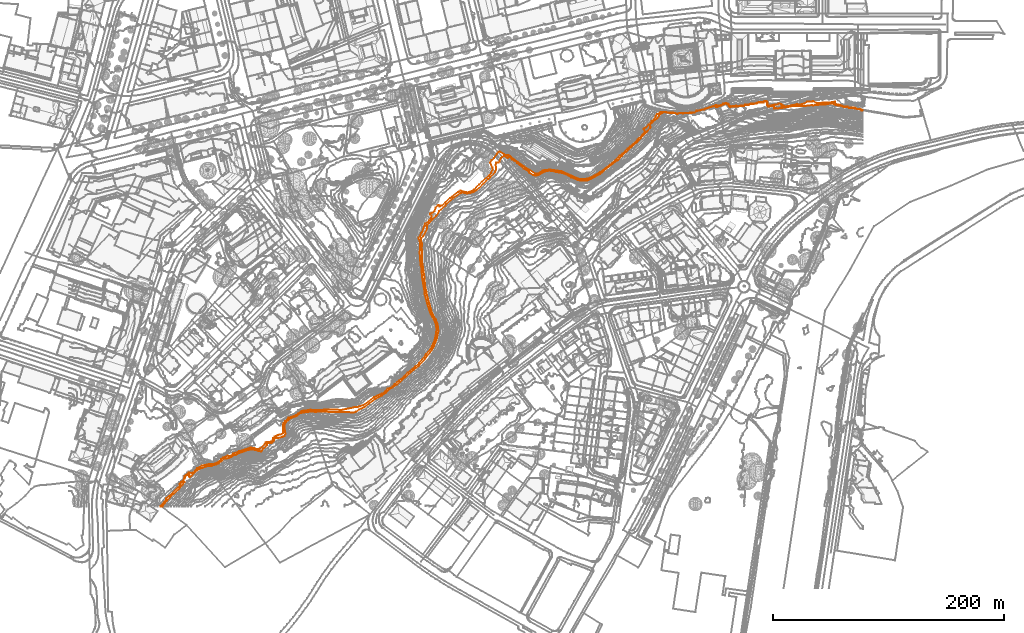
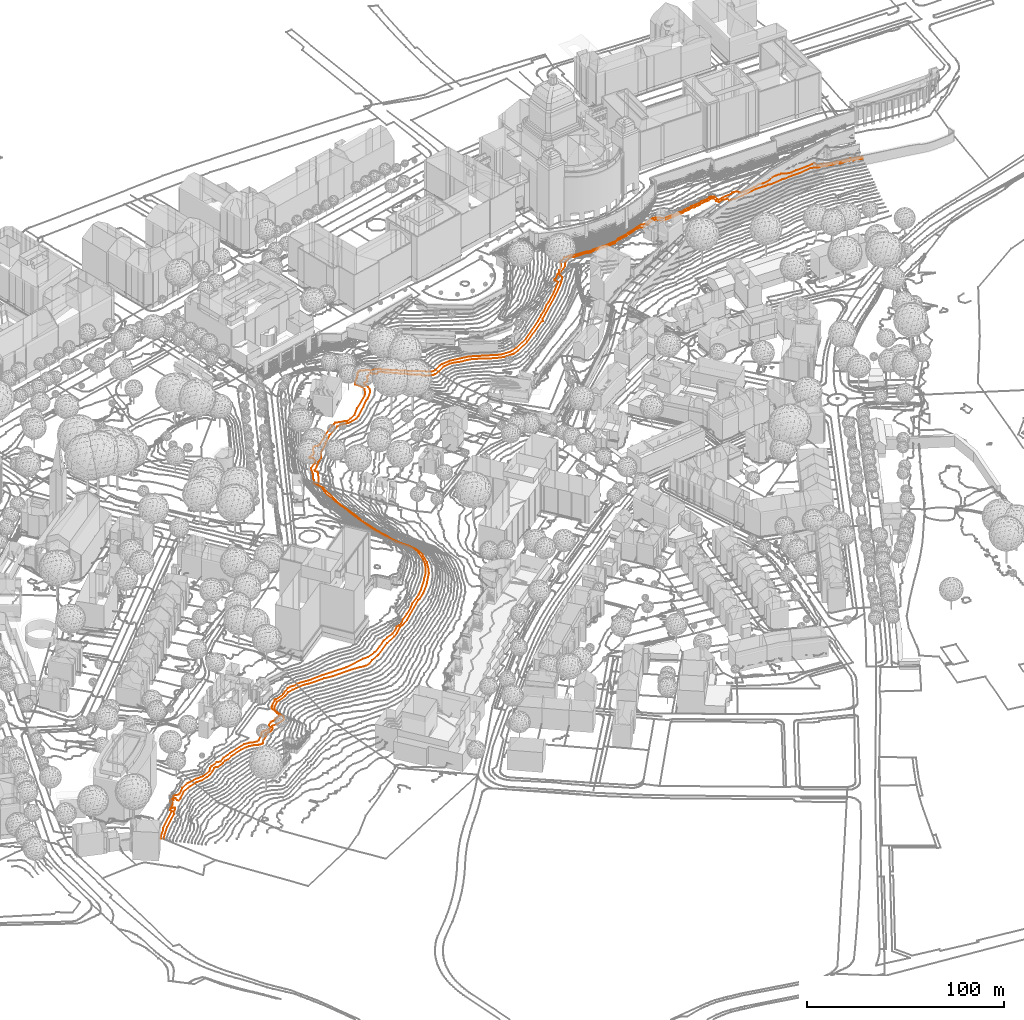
# Not in any storey, part 160 of 494: 2 proxies.
"""IFC2X3 model written with IfcOpenShell, lengths in metres."""

from ifc_helpers import new_model, entity, si_unit, frame, origin_with_axes, place, context, subcontext, project, element, save


model = new_model("IFC2X3")

# Units and contexts
model_context = context("Model", 3, precision=1e-05, world=origin_with_axes())
body_context = subcontext(model_context, "Body", "Model", "MODEL_VIEW")
ifc_project = project(units=[si_unit("AREAUNIT", "SQUARE_METRE"), si_unit("LENGTHUNIT", "METRE")], contexts=[model_context])

# Proxies
proxy_1_placement = place(None, frame((80.2901245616, -1.3292839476, 523.0), z_axis=(0.0, 0.0, 1.0), x_axis=(1.0, 0.0, 0.0)))
element("IfcBuildingElementProxy", 1, at=proxy_1_placement, Name="Contour Line 523.0 m", ObjectType="NOTDEFINED", context=body_context, shape_type="GeometricCurveSet", body=[
    entity("IfcGeometricCurveSet", [entity("IfcPolyline", [entity("IfcCartesianPoint", [607.887607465, 343.9617349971, 0.0]), entity("IfcCartesianPoint", [606.387607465, 343.9329617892, 0.0]), entity("IfcCartesianPoint", [604.387607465, 344.9141436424, 0.0]), entity("IfcCartesianPoint", [602.387607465, 344.935644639, 0.0]), entity("IfcCartesianPoint", [601.387607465, 345.7132779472, 0.0]), entity("IfcCartesianPoint", [600.387607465, 345.3858418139, 0.0]), entity("IfcCartesianPoint", [599.387607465, 345.8401272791, 0.0]), entity("IfcCartesianPoint", [595.387607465, 345.9447836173, 0.0]), entity("IfcCartesianPoint", [594.387607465, 346.6940553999, 0.0]), entity("IfcCartesianPoint", [591.387607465, 346.9101372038, 0.0]), entity("IfcCartesianPoint", [586.387607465, 348.2192258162, 0.0]), entity("IfcCartesianPoint", [584.387607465, 348.3340580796, 0.0]), entity("IfcCartesianPoint", [580.387607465, 349.968499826, 0.0]), entity("IfcCartesianPoint", [573.387607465, 348.8117602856, 0.0]), entity("IfcCartesianPoint", [567.387607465, 348.6889961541, 0.0]), entity("IfcCartesianPoint", [564.387607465, 348.205562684, 0.0]), entity("IfcCartesianPoint", [563.387607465, 348.5199958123, 0.0]), entity("IfcCartesianPoint", [556.387607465, 347.5734642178, 0.0]), entity("IfcCartesianPoint", [554.387607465, 347.8144634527, 0.0]), entity("IfcCartesianPoint", [552.387607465, 347.5605184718, 0.0]), entity("IfcCartesianPoint", [551.387607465, 347.7970346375, 0.0]), entity("IfcCartesianPoint", [545.387607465, 347.5783305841, 0.0]), entity("IfcCartesianPoint", [544.387607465, 347.13455332, 0.0]), entity("IfcCartesianPoint", [538.387607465, 346.1805238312, 0.0]), entity("IfcCartesianPoint", [533.387607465, 345.5488092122, 0.0]), entity("IfcCartesianPoint", [532.387607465, 345.907955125, 0.0]), entity("IfcCartesianPoint", [531.387607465, 345.4895615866, 0.0]), entity("IfcCartesianPoint", [530.387607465, 345.4956201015, 0.0]), entity("IfcCartesianPoint", [530.4279519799, 347.5, 0.0]), entity("IfcCartesianPoint", [527.387607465, 347.6563936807, 0.0]), entity("IfcCartesianPoint", [525.387607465, 347.0467432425, 0.0]), entity("IfcCartesianPoint", [524.4308425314, 348.5, 0.0]), entity("IfcCartesianPoint", [524.387607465, 350.9600795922, 0.0]), entity("IfcCartesianPoint", [523.387607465, 351.6588998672, 0.0]), entity("IfcCartesianPoint", [522.387607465, 351.635143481, 0.0]), entity("IfcCartesianPoint", [521.387607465, 350.8504728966, 0.0]), entity("IfcCartesianPoint", [516.387607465, 350.6013001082, 0.0]), entity("IfcCartesianPoint", [515.387607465, 349.7208739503, 0.0]), entity("IfcCartesianPoint", [513.387607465, 349.6766902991, 0.0]), entity("IfcCartesianPoint", [512.387607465, 349.1739752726, 0.0]), entity("IfcCartesianPoint", [510.387607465, 349.5275631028, 0.0]), entity("IfcCartesianPoint", [508.387607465, 348.7257037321, 0.0]), entity("IfcCartesianPoint", [505.387607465, 348.5382556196, 0.0]), entity("IfcCartesianPoint", [504.387607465, 347.7509316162, 0.0]), entity("IfcCartesianPoint", [500.387607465, 347.7685088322, 0.0]), entity("IfcCartesianPoint", [498.387607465, 347.045840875, 0.0]), entity("IfcCartesianPoint", [497.387607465, 347.3271009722, 0.0]), entity("IfcCartesianPoint", [492.387607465, 346.9011822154, 0.0]), entity("IfcCartesianPoint", [491.4590246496, 347.5, 0.0]), entity("IfcCartesianPoint", [490.8984999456, 348.5, 0.0]), entity("IfcCartesianPoint", [489.7314452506, 349.5, 0.0]), entity("IfcCartesianPoint", [488.387607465, 349.8032248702, 0.0]), entity("IfcCartesianPoint", [486.387607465, 349.1305740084, 0.0]), entity("IfcCartesianPoint", [484.387607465, 347.9505357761, 0.0]), entity("IfcCartesianPoint", [482.387607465, 347.6313119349, 0.0]), entity("IfcCartesianPoint", [481.387607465, 346.9363981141, 0.0]), entity("IfcCartesianPoint", [480.387607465, 346.9432249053, 0.0]), entity("IfcCartesianPoint", [479.387607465, 347.5726016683, 0.0]), entity("IfcCartesianPoint", [477.8735184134, 347.5, 0.0]), entity("IfcCartesianPoint", [471.610186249, 345.5, 0.0]), entity("IfcCartesianPoint", [469.387607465, 344.4264921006, 0.0]), entity("IfcCartesianPoint", [468.387607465, 344.5714488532, 0.0]), entity("IfcCartesianPoint", [465.387607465, 343.6252999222, 0.0]), entity("IfcCartesianPoint", [463.6419995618, 343.5, 0.0]), entity("IfcCartesianPoint", [461.387607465, 341.8989911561, 0.0]), entity("IfcCartesianPoint", [453.387607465, 341.4434266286, 0.0]), entity("IfcCartesianPoint", [452.387607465, 341.6057066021, 0.0]), entity("IfcCartesianPoint", [451.387607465, 341.3414833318, 0.0]), entity("IfcCartesianPoint", [450.387607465, 341.6332492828, 0.0]), entity("IfcCartesianPoint", [448.387607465, 341.5722498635, 0.0]), entity("IfcCartesianPoint", [446.387607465, 340.8856875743, 0.0]), entity("IfcCartesianPoint", [444.387607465, 341.6857076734, 0.0]), entity("IfcCartesianPoint", [437.387607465, 341.8243433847, 0.0]), entity("IfcCartesianPoint", [435.8031956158, 342.5, 0.0]), entity("IfcCartesianPoint", [435.0239482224, 342.5, 0.0]), entity("IfcCartesianPoint", [431.8267600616, 340.5, 0.0]), entity("IfcCartesianPoint", [430.8339106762, 339.5, 0.0]), entity("IfcCartesianPoint", [429.387607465, 337.125364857, 0.0]), entity("IfcCartesianPoint", [424.6018988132, 333.5, 0.0]), entity("IfcCartesianPoint", [422.9805183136, 331.5, 0.0]), entity("IfcCartesianPoint", [422.8377163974, 330.5, 0.0]), entity("IfcCartesianPoint", [423.2194077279, 329.5, 0.0]), entity("IfcCartesianPoint", [422.7685290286, 328.5, 0.0]), entity("IfcCartesianPoint", [420.364514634, 325.5, 0.0]), entity("IfcCartesianPoint", [411.5872614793, 316.5, 0.0]), entity("IfcCartesianPoint", [396.3376795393, 302.5, 0.0]), entity("IfcCartesianPoint", [395.387607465, 300.7470509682, 0.0]), entity("IfcCartesianPoint", [394.387607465, 300.5691561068, 0.0]), entity("IfcCartesianPoint", [379.387607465, 288.8152193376, 0.0]), entity("IfcCartesianPoint", [371.387607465, 284.3474561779, 0.0]), entity("IfcCartesianPoint", [368.387607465, 283.0231230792, 0.0]), entity("IfcCartesianPoint", [367.387607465, 282.8914207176, 0.0]), entity("IfcCartesianPoint", [362.387607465, 283.0132835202, 0.0]), entity("IfcCartesianPoint", [360.387607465, 283.4012318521, 0.0]), entity("IfcCartesianPoint", [354.387607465, 285.8347690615, 0.0]), entity("IfcCartesianPoint", [350.387607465, 288.0601079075, 0.0]), entity("IfcCartesianPoint", [346.387607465, 289.7221881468, 0.0]), entity("IfcCartesianPoint", [341.387607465, 290.3387412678, 0.0]), entity("IfcCartesianPoint", [338.387607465, 291.1725765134, 0.0]), entity("IfcCartesianPoint", [335.387607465, 291.548756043, 0.0]), entity("IfcCartesianPoint", [331.387607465, 290.8349322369, 0.0]), entity("IfcCartesianPoint", [327.387607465, 288.4887863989, 0.0]), entity("IfcCartesianPoint", [324.387607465, 287.3178466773, 0.0]), entity("IfcCartesianPoint", [323.387607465, 287.1474806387, 0.0]), entity("IfcCartesianPoint", [322.387607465, 287.6777660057, 0.0]), entity("IfcCartesianPoint", [321.387607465, 287.6927975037, 0.0]), entity("IfcCartesianPoint", [318.4787883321, 289.5, 0.0]), entity("IfcCartesianPoint", [318.1269273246, 290.5, 0.0]), entity("IfcCartesianPoint", [317.387607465, 291.0615405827, 0.0]), entity("IfcCartesianPoint", [313.387607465, 293.398916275, 0.0]), entity("IfcCartesianPoint", [312.387607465, 294.5399532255, 0.0]), entity("IfcCartesianPoint", [307.387607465, 298.1683298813, 0.0]), entity("IfcCartesianPoint", [304.7986599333, 300.5, 0.0]), entity("IfcCartesianPoint", [303.387607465, 301.3018742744, 0.0]), entity("IfcCartesianPoint", [301.387607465, 303.3150881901, 0.0]), entity("IfcCartesianPoint", [300.387607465, 303.3063492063, 0.0]), entity("IfcCartesianPoint", [299.387607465, 302.4840359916, 0.0]), entity("IfcCartesianPoint", [296.387607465, 304.3757330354, 0.0]), entity("IfcCartesianPoint", [294.387607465, 303.2894971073, 0.0]), entity("IfcCartesianPoint", [293.5268602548, 302.5, 0.0]), entity("IfcCartesianPoint", [292.1628645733, 299.5, 0.0]), entity("IfcCartesianPoint", [291.387607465, 298.8351491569, 0.0]), entity("IfcCartesianPoint", [289.3373173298, 298.5, 0.0]), entity("IfcCartesianPoint", [289.0014120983, 296.5, 0.0]), entity("IfcCartesianPoint", [289.4528651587, 294.5, 0.0]), entity("IfcCartesianPoint", [289.2950275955, 292.5, 0.0]), entity("IfcCartesianPoint", [288.4443204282, 290.5, 0.0]), entity("IfcCartesianPoint", [284.031815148, 285.5, 0.0]), entity("IfcCartesianPoint", [282.387607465, 284.4206248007, 0.0]), entity("IfcCartesianPoint", [278.6139767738, 280.5, 0.0]), entity("IfcCartesianPoint", [272.387607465, 274.8032613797, 0.0]), entity("IfcCartesianPoint", [270.387607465, 273.345480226, 0.0]), entity("IfcCartesianPoint", [266.387607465, 272.1306627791, 0.0]), entity("IfcCartesianPoint", [264.387607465, 271.8679263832, 0.0]), entity("IfcCartesianPoint", [263.387607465, 272.2083102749, 0.0]), entity("IfcCartesianPoint", [262.387607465, 272.0954206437, 0.0]), entity("IfcCartesianPoint", [260.387607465, 272.4870904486, 0.0]), entity("IfcCartesianPoint", [258.387607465, 272.0853977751, 0.0]), entity("IfcCartesianPoint", [251.387607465, 267.375862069, 0.0]), entity("IfcCartesianPoint", [245.9177363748, 262.5, 0.0]), entity("IfcCartesianPoint", [245.387607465, 261.4444942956, 0.0]), entity("IfcCartesianPoint", [240.0871224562, 256.5, 0.0]), entity("IfcCartesianPoint", [237.387607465, 252.089555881, 0.0]), entity("IfcCartesianPoint", [234.387607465, 249.6857069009, 0.0]), entity("IfcCartesianPoint", [231.387607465, 246.1584673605, 0.0]), entity("IfcCartesianPoint", [229.387607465, 244.5170024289, 0.0]), entity("IfcCartesianPoint", [228.9432533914, 243.5, 0.0]), entity("IfcCartesianPoint", [229.6468821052, 242.5, 0.0]), entity("IfcCartesianPoint", [229.5535583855, 241.5, 0.0]), entity("IfcCartesianPoint", [226.5150489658, 235.5, 0.0]), entity("IfcCartesianPoint", [224.252154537, 232.5, 0.0]), entity("IfcCartesianPoint", [224.1505689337, 231.5, 0.0]), entity("IfcCartesianPoint", [225.2495502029, 228.5, 0.0]), entity("IfcCartesianPoint", [224.9029743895, 225.5, 0.0]), entity("IfcCartesianPoint", [225.2623955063, 212.5, 0.0]), entity("IfcCartesianPoint", [227.3521795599, 198.5, 0.0]), entity("IfcCartesianPoint", [227.6829179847, 192.5, 0.0]), entity("IfcCartesianPoint", [229.0436056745, 186.5, 0.0]), entity("IfcCartesianPoint", [229.0337632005, 185.5, 0.0]), entity("IfcCartesianPoint", [230.457656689, 180.5, 0.0]), entity("IfcCartesianPoint", [230.4317061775, 179.5, 0.0]), entity("IfcCartesianPoint", [231.387607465, 177.2787839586, 0.0]), entity("IfcCartesianPoint", [233.0495169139, 170.5, 0.0]), entity("IfcCartesianPoint", [234.7615934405, 166.5, 0.0]), entity("IfcCartesianPoint", [237.1338685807, 162.5, 0.0]), entity("IfcCartesianPoint", [238.6294713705, 158.5, 0.0]), entity("IfcCartesianPoint", [239.187552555, 155.5, 0.0]), entity("IfcCartesianPoint", [239.2970750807, 152.5, 0.0]), entity("IfcCartesianPoint", [237.8738739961, 145.5, 0.0]), entity("IfcCartesianPoint", [235.4325001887, 139.5, 0.0]), entity("IfcCartesianPoint", [233.8001429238, 136.5, 0.0]), entity("IfcCartesianPoint", [227.8925513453, 128.5, 0.0]), entity("IfcCartesianPoint", [222.387607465, 122.5286803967, 0.0]), entity("IfcCartesianPoint", [218.387607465, 119.1673704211, 0.0]), entity("IfcCartesianPoint", [217.1425792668, 118.5, 0.0]), entity("IfcCartesianPoint", [203.387607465, 106.0939931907, 0.0]), entity("IfcCartesianPoint", [199.387607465, 103.5094870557, 0.0]), entity("IfcCartesianPoint", [197.1884157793, 102.5, 0.0]), entity("IfcCartesianPoint", [193.387607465, 98.839586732, 0.0]), entity("IfcCartesianPoint", [190.387607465, 96.6407471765, 0.0]), entity("IfcCartesianPoint", [184.387607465, 93.4671872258, 0.0]), entity("IfcCartesianPoint", [175.387607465, 86.6558441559, 0.0]), entity("IfcCartesianPoint", [170.4765164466, 84.5, 0.0]), entity("IfcCartesianPoint", [167.8571525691, 82.5, 0.0]), entity("IfcCartesianPoint", [165.387607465, 81.6234413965, 0.0]), entity("IfcCartesianPoint", [164.387607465, 81.5694310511, 0.0]), entity("IfcCartesianPoint", [161.387607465, 82.159366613, 0.0]), entity("IfcCartesianPoint", [157.387607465, 82.342209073, 0.0]), entity("IfcCartesianPoint", [146.387607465, 82.0065545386, 0.0]), entity("IfcCartesianPoint", [141.387607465, 82.5680634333, 0.0]), entity("IfcCartesianPoint", [132.387607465, 82.3552546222, 0.0]), entity("IfcCartesianPoint", [129.387607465, 82.77495078, 0.0]), entity("IfcCartesianPoint", [122.387607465, 81.8322362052, 0.0]), entity("IfcCartesianPoint", [119.387607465, 81.1572930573, 0.0]), entity("IfcCartesianPoint", [116.387607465, 78.8026834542, 0.0]), entity("IfcCartesianPoint", [110.387607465, 76.5240095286, 0.0]), entity("IfcCartesianPoint", [107.2269230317, 73.5, 0.0]), entity("IfcCartesianPoint", [105.9782556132, 71.5, 0.0]), entity("IfcCartesianPoint", [105.8037117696, 68.5, 0.0]), entity("IfcCartesianPoint", [106.6391298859, 63.5, 0.0]), entity("IfcCartesianPoint", [105.6840139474, 61.5, 0.0]), entity("IfcCartesianPoint", [104.387607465, 60.7896774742, 0.0]), entity("IfcCartesianPoint", [100.387607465, 59.5223642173, 0.0]), entity("IfcCartesianPoint", [97.387607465, 59.4044834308, 0.0]), entity("IfcCartesianPoint", [96.7213966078, 58.5, 0.0]), entity("IfcCartesianPoint", [96.7549462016, 57.5, 0.0]), entity("IfcCartesianPoint", [95.387607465, 56.0836190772, 0.0]), entity("IfcCartesianPoint", [94.387607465, 55.4600977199, 0.0]), entity("IfcCartesianPoint", [91.387607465, 55.0930104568, 0.0]), entity("IfcCartesianPoint", [90.61047079, 54.5, 0.0]), entity("IfcCartesianPoint", [90.6728069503, 53.5, 0.0]), entity("IfcCartesianPoint", [90.387607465, 53.0814129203, 0.0]), entity("IfcCartesianPoint", [87.2115131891, 50.5, 0.0]), entity("IfcCartesianPoint", [86.004655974, 48.5, 0.0]), entity("IfcCartesianPoint", [85.387607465, 48.0544362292, 0.0]), entity("IfcCartesianPoint", [83.387607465, 48.1847888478, 0.0]), entity("IfcCartesianPoint", [80.387607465, 49.3613977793, 0.0]), entity("IfcCartesianPoint", [78.387607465, 49.6029000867, 0.0]), entity("IfcCartesianPoint", [76.387607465, 49.6364249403, 0.0]), entity("IfcCartesianPoint", [73.387607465, 48.9988590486, 0.0]), entity("IfcCartesianPoint", [66.387607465, 46.6589863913, 0.0]), entity("IfcCartesianPoint", [63.387607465, 44.8832614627, 0.0]), entity("IfcCartesianPoint", [61.387607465, 44.5843885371, 0.0]), entity("IfcCartesianPoint", [59.387607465, 43.2367092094, 0.0]), entity("IfcCartesianPoint", [57.387607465, 42.3674785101, 0.0]), entity("IfcCartesianPoint", [55.387607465, 41.7757069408, 0.0]), entity("IfcCartesianPoint", [54.387607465, 42.0655055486, 0.0]), entity("IfcCartesianPoint", [53.387607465, 41.7878219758, 0.0]), entity("IfcCartesianPoint", [51.387607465, 39.7250000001, 0.0]), entity("IfcCartesianPoint", [48.387607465, 37.6286245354, 0.0]), entity("IfcCartesianPoint", [46.387607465, 36.769304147, 0.0]), entity("IfcCartesianPoint", [42.387607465, 35.4841887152, 0.0]), entity("IfcCartesianPoint", [39.387607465, 35.3817577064, 0.0]), entity("IfcCartesianPoint", [34.387607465, 33.8119349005, 0.0]), entity("IfcCartesianPoint", [29.6582101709, 31.5, 0.0]), entity("IfcCartesianPoint", [25.387607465, 27.2555387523, 0.0]), entity("IfcCartesianPoint", [23.387607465, 25.8533734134, 0.0]), entity("IfcCartesianPoint", [23.0269517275, 26.5, 0.0]), entity("IfcCartesianPoint", [23.2056843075, 28.5, 0.0]), entity("IfcCartesianPoint", [22.387607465, 28.8152763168, 0.0]), entity("IfcCartesianPoint", [21.387607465, 27.525104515, 0.0]), entity("IfcCartesianPoint", [19.2088132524, 26.5, 0.0]), entity("IfcCartesianPoint", [19.7446034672, 25.5, 0.0]), entity("IfcCartesianPoint", [19.2012319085, 24.5, 0.0]), entity("IfcCartesianPoint", [17.2445183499, 22.5, 0.0]), entity("IfcCartesianPoint", [17.387607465, 21.509166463, 0.0]), entity("IfcCartesianPoint", [18.387607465, 21.8259928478, 0.0]), entity("IfcCartesianPoint", [18.9146920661, 21.5, 0.0]), entity("IfcCartesianPoint", [17.387607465, 19.311473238, 0.0]), entity("IfcCartesianPoint", [16.387607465, 18.5598396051, 0.0]), entity("IfcCartesianPoint", [15.387607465, 16.7103158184, 0.0]), entity("IfcCartesianPoint", [6.6591608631, 8.5, 0.0]), entity("IfcCartesianPoint", [2.3040126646, 3.5, 0.0]), entity("IfcCartesianPoint", [0.0, 0.5, 0.0]), entity("IfcCartesianPoint", [0.0, 0.0, 0.0])])]),
])
proxy_2_placement = place(None, frame((78.4154227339, -1.3292839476, 524.0), z_axis=(0.0, 0.0, 1.0), x_axis=(1.0, 0.0, 0.0)))
element("IfcBuildingElementProxy", 2, at=proxy_2_placement, Name="Contour Line 524.0 m", ObjectType="NOTDEFINED", context=body_context, shape_type="GeometricCurveSet", body=[
    entity("IfcGeometricCurveSet", [entity("IfcPolyline", [entity("IfcCartesianPoint", [609.7623092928, 344.286234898, 0.0]), entity("IfcCartesianPoint", [608.2623092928, 344.2246892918, 0.0]), entity("IfcCartesianPoint", [607.2623092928, 344.9590182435, 0.0]), entity("IfcCartesianPoint", [606.2623092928, 345.2153256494, 0.0]), entity("IfcCartesianPoint", [604.2623092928, 345.2320320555, 0.0]), entity("IfcCartesianPoint", [603.2623092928, 346.1159915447, 0.0]), entity("IfcCartesianPoint", [597.2623092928, 346.2305726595, 0.0]), entity("IfcCartesianPoint", [596.2623092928, 347.1189957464, 0.0]), entity("IfcCartesianPoint", [593.2623092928, 347.2197717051, 0.0]), entity("IfcCartesianPoint", [588.2623092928, 348.9337588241, 0.0]), entity("IfcCartesianPoint", [586.2623092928, 349.1539193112, 0.0]), entity("IfcCartesianPoint", [585.7941982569, 349.5, 0.0]), entity("IfcCartesianPoint", [585.2623092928, 351.5100186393, 0.0]), entity("IfcCartesianPoint", [581.2623092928, 350.8499732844, 0.0]), entity("IfcCartesianPoint", [574.2623092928, 350.6660930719, 0.0]), entity("IfcCartesianPoint", [571.2623092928, 350.182030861, 0.0]), entity("IfcCartesianPoint", [568.4652279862, 350.5, 0.0]), entity("IfcCartesianPoint", [566.2623092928, 351.8584292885, 0.0]), entity("IfcCartesianPoint", [565.2623092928, 351.6362995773, 0.0]), entity("IfcCartesianPoint", [562.2623092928, 351.7382369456, 0.0]), entity("IfcCartesianPoint", [560.831351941, 351.5, 0.0]), entity("IfcCartesianPoint", [558.2623092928, 349.8761570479, 0.0]), entity("IfcCartesianPoint", [554.2623092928, 348.8389417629, 0.0]), entity("IfcCartesianPoint", [552.2623092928, 349.3170882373, 0.0]), entity("IfcCartesianPoint", [548.2623092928, 348.3243764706, 0.0]), entity("IfcCartesianPoint", [542.2623092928, 347.2999059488, 0.0]), entity("IfcCartesianPoint", [541.2623092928, 347.6364945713, 0.0]), entity("IfcCartesianPoint", [540.2623092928, 347.3253578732, 0.0]), entity("IfcCartesianPoint", [539.1094185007, 347.5, 0.0]), entity("IfcCartesianPoint", [539.6221059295, 348.5, 0.0]), entity("IfcCartesianPoint", [538.4832491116, 349.5, 0.0]), entity("IfcCartesianPoint", [537.2623092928, 349.6359676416, 0.0]), entity("IfcCartesianPoint", [536.2623092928, 349.622808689, 0.0]), entity("IfcCartesianPoint", [535.2623092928, 348.9714051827, 0.0]), entity("IfcCartesianPoint", [531.2623092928, 348.686547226, 0.0]), entity("IfcCartesianPoint", [530.2623092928, 348.2478624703, 0.0]), entity("IfcCartesianPoint", [527.2623092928, 347.8732684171, 0.0]), entity("IfcCartesianPoint", [526.8819181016, 348.5, 0.0]), entity("IfcCartesianPoint", [526.8253004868, 350.5, 0.0]), entity("IfcCartesianPoint", [526.5191205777, 351.5, 0.0]), entity("IfcCartesianPoint", [525.2623092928, 352.0615936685, 0.0]), entity("IfcCartesianPoint", [524.2623092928, 351.9965260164, 0.0]), entity("IfcCartesianPoint", [522.2623092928, 351.0504961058, 0.0]), entity("IfcCartesianPoint", [518.2623092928, 350.8971469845, 0.0]), entity("IfcCartesianPoint", [517.2623092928, 350.0897251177, 0.0]), entity("IfcCartesianPoint", [512.2623092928, 349.8179771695, 0.0]), entity("IfcCartesianPoint", [510.2623092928, 349.02382772, 0.0]), entity("IfcCartesianPoint", [507.2623092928, 348.8493127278, 0.0]), entity("IfcCartesianPoint", [506.2623092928, 348.0187140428, 0.0]), entity("IfcCartesianPoint", [504.2623092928, 348.2498108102, 0.0]), entity("IfcCartesianPoint", [500.2623092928, 347.47563023, 0.0]), entity("IfcCartesianPoint", [499.2623092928, 347.8721327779, 0.0]), entity("IfcCartesianPoint", [495.2623092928, 347.3313546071, 0.0]), entity("IfcCartesianPoint", [494.7106896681, 347.5, 0.0]), entity("IfcCartesianPoint", [492.7927532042, 349.5, 0.0]), entity("IfcCartesianPoint", [490.2623092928, 350.3975586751, 0.0]), entity("IfcCartesianPoint", [488.2623092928, 349.7282287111, 0.0]), entity("IfcCartesianPoint", [486.2623092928, 348.5195976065, 0.0]), entity("IfcCartesianPoint", [483.2623092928, 347.8939881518, 0.0]), entity("IfcCartesianPoint", [482.0299094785, 348.5, 0.0]), entity("IfcCartesianPoint", [472.9488191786, 345.5, 0.0]), entity("IfcCartesianPoint", [471.2623092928, 344.6636973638, 0.0]), entity("IfcCartesianPoint", [465.2623092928, 343.5444147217, 0.0]), entity("IfcCartesianPoint", [463.2623092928, 342.1708480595, 0.0]), entity("IfcCartesianPoint", [462.2623092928, 342.0384574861, 0.0]), entity("IfcCartesianPoint", [455.2623092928, 341.5820647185, 0.0]), entity("IfcCartesianPoint", [450.2623092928, 341.6461551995, 0.0]), entity("IfcCartesianPoint", [448.2623092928, 341.0322651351, 0.0]), entity("IfcCartesianPoint", [446.2623092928, 341.7681370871, 0.0]), entity("IfcCartesianPoint", [440.2623092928, 341.9413952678, 0.0]), entity("IfcCartesianPoint", [438.2623092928, 342.5663771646, 0.0]), entity("IfcCartesianPoint", [433.7172062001, 342.5, 0.0]), entity("IfcCartesianPoint", [430.6928384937, 340.5, 0.0]), entity("IfcCartesianPoint", [429.9822358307, 339.5, 0.0]), entity("IfcCartesianPoint", [429.7702952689, 338.5, 0.0]), entity("IfcCartesianPoint", [427.7572443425, 335.5, 0.0]), entity("IfcCartesianPoint", [426.2623092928, 334.4248206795, 0.0]), entity("IfcCartesianPoint", [425.2623092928, 332.8605003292, 0.0]), entity("IfcCartesianPoint", [423.5167788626, 331.5, 0.0]), entity("IfcCartesianPoint", [421.2623092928, 328.9786450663, 0.0]), entity("IfcCartesianPoint", [420.2298872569, 328.5, 0.0]), entity("IfcCartesianPoint", [419.2163165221, 327.5, 0.0]), entity("IfcCartesianPoint", [420.3571754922, 325.5, 0.0]), entity("IfcCartesianPoint", [413.8694790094, 318.5, 0.0]), entity("IfcCartesianPoint", [407.3866839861, 312.5, 0.0]), entity("IfcCartesianPoint", [405.2623092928, 310.9042367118, 0.0]), entity("IfcCartesianPoint", [401.1246565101, 306.5, 0.0]), entity("IfcCartesianPoint", [398.3581380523, 304.5, 0.0]), entity("IfcCartesianPoint", [394.2623092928, 300.4917527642, 0.0]), entity("IfcCartesianPoint", [381.2623092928, 290.2598956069, 0.0]), entity("IfcCartesianPoint", [373.2623092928, 285.7434564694, 0.0]), entity("IfcCartesianPoint", [370.2623092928, 284.5725746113, 0.0]), entity("IfcCartesianPoint", [368.2623092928, 284.1718397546, 0.0]), entity("IfcCartesianPoint", [364.2623092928, 284.2406321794, 0.0]), entity("IfcCartesianPoint", [362.2623092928, 284.6790883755, 0.0]), entity("IfcCartesianPoint", [348.2623092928, 291.0172442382, 0.0]), entity("IfcCartesianPoint", [338.2623092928, 292.5122809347, 0.0]), entity("IfcCartesianPoint", [333.2623092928, 292.1322010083, 0.0]), entity("IfcCartesianPoint", [331.4035712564, 291.5, 0.0]), entity("IfcCartesianPoint", [327.2623092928, 289.0475717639, 0.0]), entity("IfcCartesianPoint", [325.2623092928, 288.8366134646, 0.0]), entity("IfcCartesianPoint", [320.2623092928, 292.304146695, 0.0]), entity("IfcCartesianPoint", [316.2623092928, 294.3555922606, 0.0]), entity("IfcCartesianPoint", [315.0945172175, 295.5, 0.0]), entity("IfcCartesianPoint", [304.2623092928, 303.2253564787, 0.0]), entity("IfcCartesianPoint", [303.2623092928, 304.428030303, 0.0]), entity("IfcCartesianPoint", [301.2623092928, 305.2754755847, 0.0]), entity("IfcCartesianPoint", [299.2623092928, 304.9019184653, 0.0]), entity("IfcCartesianPoint", [298.2623092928, 305.8404733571, 0.0]), entity("IfcCartesianPoint", [294.2623092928, 307.9958853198, 0.0]), entity("IfcCartesianPoint", [293.2623092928, 307.534414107, 0.0]), entity("IfcCartesianPoint", [292.144146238, 306.5, 0.0]), entity("IfcCartesianPoint", [289.3426781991, 302.5, 0.0]), entity("IfcCartesianPoint", [287.2623092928, 300.5981502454, 0.0]), entity("IfcCartesianPoint", [286.0895200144, 298.5, 0.0]), entity("IfcCartesianPoint", [288.095294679, 294.5, 0.0]), entity("IfcCartesianPoint", [288.062590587, 292.5, 0.0]), entity("IfcCartesianPoint", [286.7513569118, 289.5, 0.0]), entity("IfcCartesianPoint", [285.3136702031, 287.5, 0.0]), entity("IfcCartesianPoint", [276.2623092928, 279.717270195, 0.0]), entity("IfcCartesianPoint", [272.2623092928, 275.3557298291, 0.0]), entity("IfcCartesianPoint", [269.0596733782, 273.5, 0.0]), entity("IfcCartesianPoint", [266.2623092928, 272.5757428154, 0.0]), entity("IfcCartesianPoint", [265.2623092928, 273.1955469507, 0.0]), entity("IfcCartesianPoint", [264.2623092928, 273.1292946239, 0.0]), entity("IfcCartesianPoint", [260.2623092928, 274.2189984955, 0.0]), entity("IfcCartesianPoint", [259.2623092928, 273.4305807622, 0.0]), entity("IfcCartesianPoint", [258.2623092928, 273.1660535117, 0.0]), entity("IfcCartesianPoint", [251.2623092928, 268.0187911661, 0.0]), entity("IfcCartesianPoint", [244.2623092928, 261.5161137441, 0.0]), entity("IfcCartesianPoint", [243.2623092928, 261.2490774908, 0.0]), entity("IfcCartesianPoint", [242.2623092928, 260.5574468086, 0.0]), entity("IfcCartesianPoint", [241.2623092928, 261.5930232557, 0.0]), entity("IfcCartesianPoint", [240.2623092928, 261.1852791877, 0.0]), entity("IfcCartesianPoint", [238.8893846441, 259.5, 0.0]), entity("IfcCartesianPoint", [237.6496746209, 256.5, 0.0]), entity("IfcCartesianPoint", [236.2623092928, 255.2726744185, 0.0]), entity("IfcCartesianPoint", [234.0950807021, 254.5, 0.0]), entity("IfcCartesianPoint", [234.005973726, 253.5, 0.0]), entity("IfcCartesianPoint", [235.3015450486, 252.5, 0.0]), entity("IfcCartesianPoint", [234.8901929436, 250.5, 0.0]), entity("IfcCartesianPoint", [234.3608891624, 249.5, 0.0]), entity("IfcCartesianPoint", [233.2623092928, 248.3679676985, 0.0]), entity("IfcCartesianPoint", [229.6071368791, 245.5, 0.0]), entity("IfcCartesianPoint", [227.8835360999, 240.5, 0.0]), entity("IfcCartesianPoint", [226.8999560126, 238.5, 0.0]), entity("IfcCartesianPoint", [226.0918205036, 237.5, 0.0]), entity("IfcCartesianPoint", [225.6874219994, 235.5, 0.0]), entity("IfcCartesianPoint", [225.1444879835, 234.5, 0.0]), entity("IfcCartesianPoint", [224.1464664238, 233.5, 0.0]), entity("IfcCartesianPoint", [224.1721079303, 232.5, 0.0]), entity("IfcCartesianPoint", [224.6743074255, 231.5, 0.0]), entity("IfcCartesianPoint", [225.1037568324, 229.5, 0.0]), entity("IfcCartesianPoint", [225.2470960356, 224.5, 0.0]), entity("IfcCartesianPoint", [224.896659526, 220.5, 0.0]), entity("IfcCartesianPoint", [225.4292023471, 216.5, 0.0]), entity("IfcCartesianPoint", [225.4488916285, 213.5, 0.0]), entity("IfcCartesianPoint", [225.9258040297, 209.5, 0.0]), entity("IfcCartesianPoint", [226.6952913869, 206.5, 0.0]), entity("IfcCartesianPoint", [226.485033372, 205.5, 0.0]), entity("IfcCartesianPoint", [227.46520198, 196.5, 0.0]), entity("IfcCartesianPoint", [229.0519156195, 187.5, 0.0]), entity("IfcCartesianPoint", [229.3089558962, 184.5, 0.0]), entity("IfcCartesianPoint", [231.776400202, 175.5, 0.0]), entity("IfcCartesianPoint", [234.404866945, 167.5, 0.0]), entity("IfcCartesianPoint", [236.8128137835, 163.5, 0.0]), entity("IfcCartesianPoint", [238.6548700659, 159.5, 0.0]), entity("IfcCartesianPoint", [239.3630201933, 156.5, 0.0]), entity("IfcCartesianPoint", [239.4967098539, 153.5, 0.0]), entity("IfcCartesianPoint", [238.6862559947, 147.5, 0.0]), entity("IfcCartesianPoint", [238.1850400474, 146.5, 0.0]), entity("IfcCartesianPoint", [237.9123802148, 144.5, 0.0]), entity("IfcCartesianPoint", [235.6253359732, 139.5, 0.0]), entity("IfcCartesianPoint", [233.8905698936, 136.5, 0.0]), entity("IfcCartesianPoint", [230.6341337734, 132.5, 0.0]), entity("IfcCartesianPoint", [230.1160708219, 131.5, 0.0]), entity("IfcCartesianPoint", [224.2623092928, 124.7963439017, 0.0]), entity("IfcCartesianPoint", [221.1013234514, 121.5, 0.0]), entity("IfcCartesianPoint", [214.2623092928, 116.2926986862, 0.0]), entity("IfcCartesianPoint", [211.7690846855, 113.5, 0.0]), entity("IfcCartesianPoint", [207.1356077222, 109.5, 0.0]), entity("IfcCartesianPoint", [203.0179999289, 106.5, 0.0]), entity("IfcCartesianPoint", [201.2623092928, 104.3876561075, 0.0]), entity("IfcCartesianPoint", [199.2623092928, 103.1275862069, 0.0]), entity("IfcCartesianPoint", [197.1333651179, 102.5, 0.0]), entity("IfcCartesianPoint", [195.2623092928, 100.4091545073, 0.0]), entity("IfcCartesianPoint", [192.2623092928, 98.0745105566, 0.0]), entity("IfcCartesianPoint", [188.2623092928, 96.6052929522, 0.0]), entity("IfcCartesianPoint", [185.2623092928, 95.1222021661, 0.0]), entity("IfcCartesianPoint", [180.803011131, 91.5, 0.0]), entity("IfcCartesianPoint", [176.2623092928, 88.4166242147, 0.0]), entity("IfcCartesianPoint", [171.2623092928, 86.639983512, 0.0]), entity("IfcCartesianPoint", [168.2623092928, 86.3909774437, 0.0]), entity("IfcCartesianPoint", [157.2623092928, 84.0933787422, 0.0]), entity("IfcCartesianPoint", [143.2623092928, 84.2855392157, 0.0]), entity("IfcCartesianPoint", [135.2623092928, 83.7081762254, 0.0]), entity("IfcCartesianPoint", [130.2623092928, 84.1639274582, 0.0]), entity("IfcCartesianPoint", [128.2623092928, 84.0267768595, 0.0]), entity("IfcCartesianPoint", [126.2623092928, 83.3177425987, 0.0]), entity("IfcCartesianPoint", [124.2623092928, 83.5011194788, 0.0]), entity("IfcCartesianPoint", [122.2623092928, 83.079607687, 0.0]), entity("IfcCartesianPoint", [119.2623092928, 81.0307518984, 0.0]), entity("IfcCartesianPoint", [117.5481930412, 79.5, 0.0]), entity("IfcCartesianPoint", [112.2623092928, 77.5429399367, 0.0]), entity("IfcCartesianPoint", [111.2557037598, 77.5, 0.0]), entity("IfcCartesianPoint", [110.5796282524, 76.5, 0.0]), entity("IfcCartesianPoint", [108.2623092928, 74.4462326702, 0.0]), entity("IfcCartesianPoint", [106.6500695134, 72.5, 0.0]), entity("IfcCartesianPoint", [106.231681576, 71.5, 0.0]), entity("IfcCartesianPoint", [106.3757828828, 66.5, 0.0]), entity("IfcCartesianPoint", [106.6370206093, 65.5, 0.0]), entity("IfcCartesianPoint", [106.2623092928, 63.9261338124, 0.0]), entity("IfcCartesianPoint", [104.2623092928, 62.8281840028, 0.0]), entity("IfcCartesianPoint", [103.2623092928, 62.7194262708, 0.0]), entity("IfcCartesianPoint", [102.2623092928, 62.0470941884, 0.0]), entity("IfcCartesianPoint", [101.2623092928, 61.6104809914, 0.0]), entity("IfcCartesianPoint", [100.2623092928, 61.5477502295, 0.0]), entity("IfcCartesianPoint", [99.2623092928, 60.9414054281, 0.0]), entity("IfcCartesianPoint", [97.5867945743, 59.5, 0.0]), entity("IfcCartesianPoint", [97.4792633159, 57.5, 0.0]), entity("IfcCartesianPoint", [96.0837285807, 56.5, 0.0]), entity("IfcCartesianPoint", [94.2623092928, 56.1793589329, 0.0]), entity("IfcCartesianPoint", [92.2623092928, 56.210252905, 0.0]), entity("IfcCartesianPoint", [91.2623092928, 55.786011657, 0.0]), entity("IfcCartesianPoint", [90.2623092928, 54.1409272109, 0.0]), entity("IfcCartesianPoint", [86.2623092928, 50.3269175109, 0.0]), entity("IfcCartesianPoint", [85.2623092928, 50.0317890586, 0.0]), entity("IfcCartesianPoint", [82.2623092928, 50.3704271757, 0.0]), entity("IfcCartesianPoint", [81.2623092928, 50.8967727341, 0.0]), entity("IfcCartesianPoint", [78.2623092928, 51.2724746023, 0.0]), entity("IfcCartesianPoint", [68.2623092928, 48.1492609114, 0.0]), entity("IfcCartesianPoint", [66.2623092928, 47.1200797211, 0.0]), entity("IfcCartesianPoint", [63.2623092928, 46.1136777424, 0.0]), entity("IfcCartesianPoint", [60.2623092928, 43.9315222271, 0.0]), entity("IfcCartesianPoint", [58.2623092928, 44.2748974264, 0.0]), entity("IfcCartesianPoint", [54.2623092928, 42.6318339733, 0.0]), entity("IfcCartesianPoint", [52.7703239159, 41.5, 0.0]), entity("IfcCartesianPoint", [51.2189817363, 39.5, 0.0]), entity("IfcCartesianPoint", [46.2623092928, 37.1201030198, 0.0]), entity("IfcCartesianPoint", [42.2623092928, 36.9356598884, 0.0]), entity("IfcCartesianPoint", [36.2623092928, 35.7952901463, 0.0]), entity("IfcCartesianPoint", [31.8884867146, 33.5, 0.0]), entity("IfcCartesianPoint", [28.2623092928, 29.8065465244, 0.0]), entity("IfcCartesianPoint", [27.2623092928, 29.1449858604, 0.0]), entity("IfcCartesianPoint", [25.2623092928, 29.648149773, 0.0]), entity("IfcCartesianPoint", [24.2623092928, 29.478113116, 0.0]), entity("IfcCartesianPoint", [23.2623092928, 27.8675794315, 0.0]), entity("IfcCartesianPoint", [22.2623092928, 27.7312639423, 0.0]), entity("IfcCartesianPoint", [20.8159687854, 26.5, 0.0]), entity("IfcCartesianPoint", [21.0347752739, 25.5, 0.0]), entity("IfcCartesianPoint", [20.7428646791, 24.5, 0.0]), entity("IfcCartesianPoint", [17.880752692, 21.5, 0.0]), entity("IfcCartesianPoint", [17.2623092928, 19.9695467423, 0.0]), entity("IfcCartesianPoint", [16.4527854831, 19.5, 0.0]), entity("IfcCartesianPoint", [16.9586136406, 18.5, 0.0]), entity("IfcCartesianPoint", [5.4930572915, 7.5, 0.0]), entity("IfcCartesianPoint", [5.0825772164, 6.5, 0.0]), entity("IfcCartesianPoint", [0.0, 0.5, 0.0]), entity("IfcCartesianPoint", [0.0, 0.0, 0.0])])]),
])

save(model, "model.ifc")
